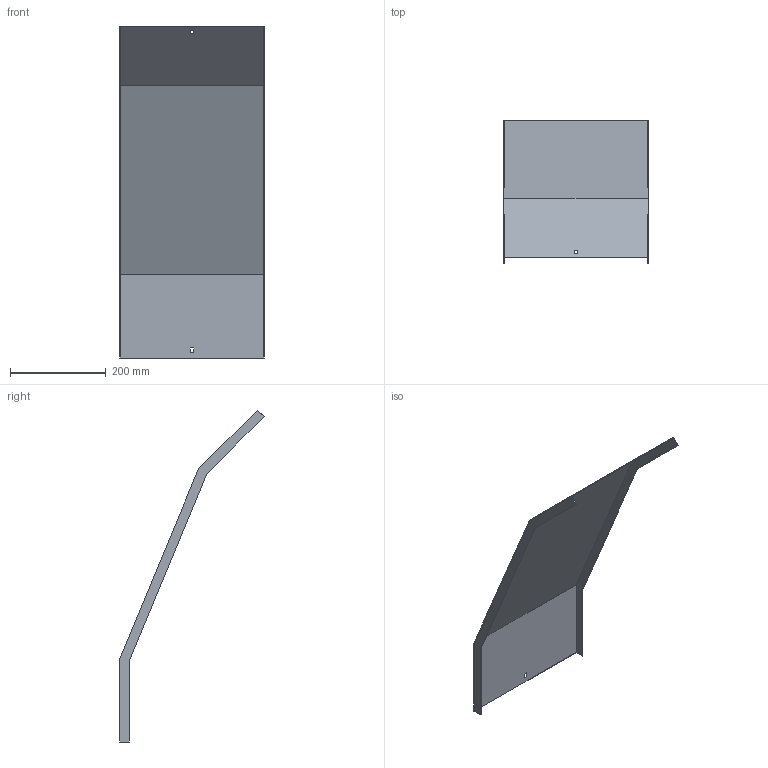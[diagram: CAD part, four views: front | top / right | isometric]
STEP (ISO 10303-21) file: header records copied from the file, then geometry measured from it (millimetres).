
FILE_DESCRIPTION (( 'STEP AP214' ), '1' );
FILE_NAME ('34N5D300.step', '2025-02-21T10:33:09', ( '' ), ( '' ), 'SwSTEP 2.0', 'SolidWorks 2023', '' );
FILE_SCHEMA (( 'AUTOMOTIVE_DESIGN' ));
Length unit declared in the file: millimetre
Products named in the file (1): 34N5D300
Bounding box: 303 x 301.7 x 694.23 mm (x, y, z)
Volume: 395814.2 mm3; surface area: 531153.1 mm2
Topology: 1 solids, 1 shells, 26 faces, 72 edges, 48 vertices
Faces by surface type: plane 26
Entity records: 847 total; most frequent: CARTESIAN_POINT 147, ORIENTED_EDGE 144, DIRECTION 126, VECTOR 72, EDGE_CURVE 72, LINE 72, VERTEX_POINT 48, EDGE_LOOP 30
